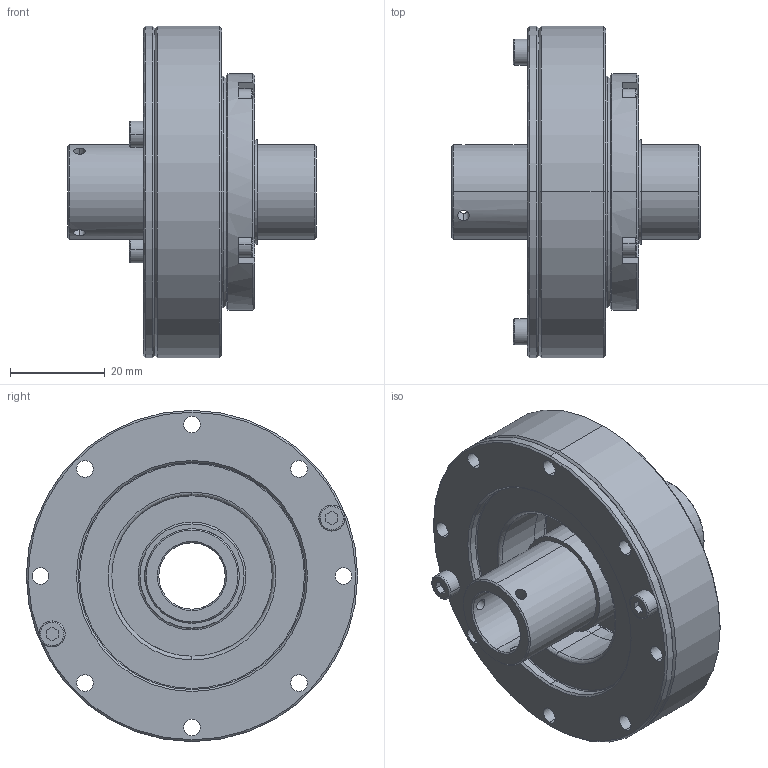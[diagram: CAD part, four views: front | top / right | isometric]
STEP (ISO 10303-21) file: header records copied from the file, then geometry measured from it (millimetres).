
FILE_DESCRIPTION(('STEP AP214'),'1');
FILE_NAME('cctmp_4630C9EE-371B-4DA2-8476-26CC04D6E458_2025_03_06_11_20_01_0160_138760..stp','2025-03-06T10:20:01',('HIWIN GmbH'),('CADClick - www.CADClick.com'),'Spatial InterOp 3D',' ','unknown authorization');
FILE_SCHEMA(('AUTOMOTIVE_DESIGN'));
Length unit declared in the file: millimetre
Products named in the file (2): DSH-14-XX-PH_FILE; 2025_03_06_11_20_01_0160
Assembly tree (1 placements, depth 2):
  DSH-14-XX-PH_FILE
    2025_03_06_11_20_01_0160
Bounding box: 52.5 x 70 x 70 mm (x, y, z)
Volume: 64427.7 mm3; surface area: 22519.3 mm2
Topology: 1 solids, 2 shells, 300 faces, 722 edges, 448 vertices
Faces by surface type: cylinder 108, plane 87, cone 84, bspline 21
Entity records: 12155 total; most frequent: CARTESIAN_POINT 2639, DIRECTION 1562, ORIENTED_EDGE 1408, EDGE_CURVE 704, AXIS2_PLACEMENT_3D 619, VERTEX_POINT 448, EDGE_LOOP 364, CIRCLE 338
